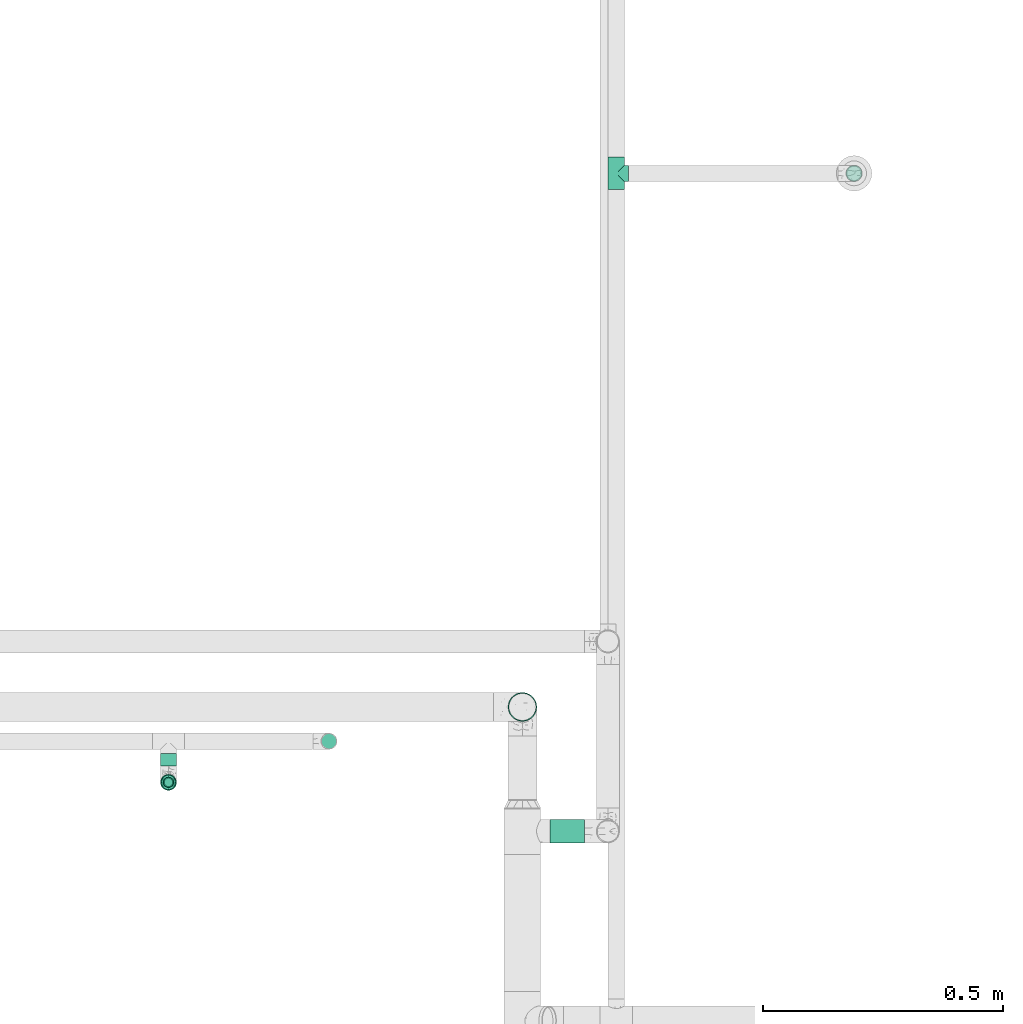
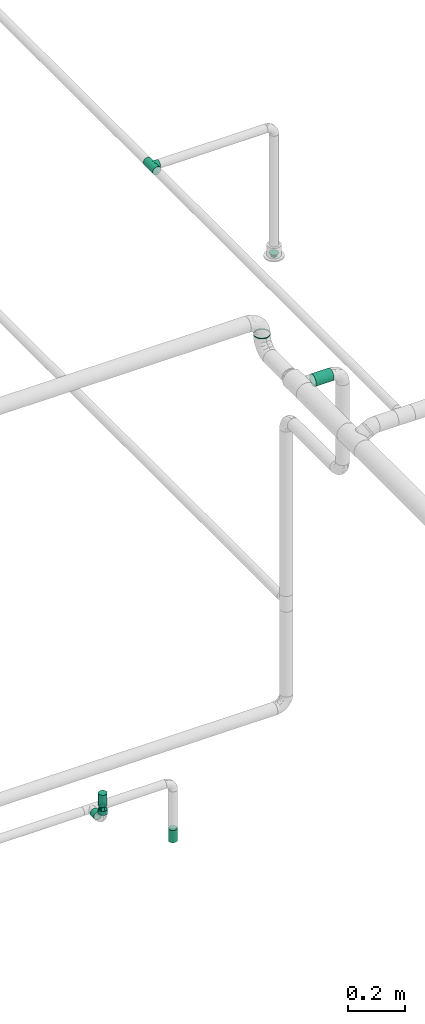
# One storey, part 62 of 95: 5 flow segments, 3 flow fittings, 2 flow terminals.
"""IFC2X3 building model written with IfcOpenShell, lengths in millimetres."""

from ifc_helpers import new_model, entity, si_unit, converted_unit, derived_unit, direction, frame, origin_with_axes, origin_2d_with_axis, place, context, subcontext, project, spatial, hollow_circle, extrude, open_shell, surface_model, source, transform, mapped, type_object, element, save


model = new_model("IFC2X3")

# Units and contexts
model_context = context("Model", 3, precision=0.01, world=frame((0.0, 4.29681676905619e-09, 0.0)), true_north=direction((4.01073788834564e-13, 1.0)))
plan_context = context("Plan", 3, precision=0.01, world=frame((0.0, 4.29681676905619e-09, 0.0)), true_north=direction((4.01073788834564e-13, 1.0)))
body_context = subcontext(model_context, "Body", "Model", "MODEL_VIEW")
ifc_project = project(units=[converted_unit("PLANEANGLEUNIT", "DEGREE", entity("IfcPositiveLengthMeasure", 0.0174532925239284), si_unit("PLANEANGLEUNIT", "RADIAN"), dimensions=[0, 0, 0, 0, 0, 0, 0]), si_unit("AREAUNIT", "SQUARE_METRE"), si_unit("LENGTHUNIT", "METRE", prefix="MILLI"), si_unit("MASSUNIT", "GRAM", prefix="KILO"), si_unit("POWERUNIT", "WATT"), si_unit("PRESSUREUNIT", "PASCAL"), si_unit("FORCEUNIT", "NEWTON", prefix="KILO"), si_unit("ELECTRICVOLTAGEUNIT", "VOLT"), si_unit("ELECTRICCURRENTUNIT", "AMPERE"), si_unit("THERMODYNAMICTEMPERATUREUNIT", "DEGREE_CELSIUS"), si_unit("TIMEUNIT", "SECOND"), si_unit("VOLUMEUNIT", "CUBIC_METRE"), derived_unit("LINEARVELOCITYUNIT", [(si_unit("LENGTHUNIT", "METRE"), 1), (si_unit("TIMEUNIT", "SECOND"), -1)]), derived_unit("VOLUMETRICFLOWRATEUNIT", [(si_unit("VOLUMEUNIT", "CUBIC_METRE"), 1), (si_unit("TIMEUNIT", "SECOND"), -1)]), derived_unit("THERMALTRANSMITTANCEUNIT", [(si_unit("POWERUNIT", "WATT"), 1), (si_unit("THERMODYNAMICTEMPERATUREUNIT", "KELVIN"), -1), (si_unit("AREAUNIT", "SQUARE_METRE"), -1)]), derived_unit("SOUNDPRESSUREUNIT", [(si_unit("PRESSUREUNIT", "PASCAL"), 1)])], contexts=[model_context, plan_context])

# Site, building, storey
site_placement = place(None, frame((0.0, -4.29681676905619e-09, 0.0), z_axis=(0.0, 0.0, 1.0), x_axis=(1.0, 0.0, 0.0)))
site = spatial("IfcSite", under=ifc_project, at=site_placement, CompositionType="ELEMENT")
building_placement = place(site_placement, frame((0.0, 4.29681676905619e-09, 0.0), z_axis=(0.0, 0.0, 1.0), x_axis=(1.0, 0.0, 0.0)))
building = spatial("IfcBuilding", under=site, at=building_placement, Name="mc-building", CompositionType="ELEMENT")
storey_placement = place(building_placement, frame((0.0, 0.0, 210900.0), z_axis=(0.0, 0.0, 1.0), x_axis=(1.0, 0.0, 0.0)))
storey = spatial("IfcBuildingStorey", under=building, at=storey_placement, Name="Nivå F", CompositionType="ELEMENT", Elevation=210900.0)

# Flow fittings
pipe_fitting_type_1 = type_object("IfcPipeFittingType", Name="magi_pipe_fe_reducer_centric_short_NOR", PredefinedType="TRANSITION")
shared_shape_1 = source(origin_with_axes(), body_context, "Body", "SurfaceModel", [
    surface_model("IfcShellBasedSurfaceModel", [(14.4, 5.35, -9.26647), (14.4, 0.0, -10.7), (14.4, 2.76936, -10.33541), (14.4, 10.33541, -2.76936), (14.4, 7.56604, -7.56604), (14.4, -10.33541, -2.76936), (14.4, 9.26647, -5.35), (14.4, 0.0, 10.7), (14.4, -5.35, -9.26647), (14.4, -2.76936, -10.33541), (14.4, -7.56604, -7.56604), (14.4, -9.26647, -5.35), (14.4, 10.7, 0.0), (14.4, 10.33541, 2.76936), (14.4, 9.26647, 5.35), (14.4, 7.56604, 7.56604), (14.4, 2.76936, 10.33541), (14.4, 5.35, 9.26647), (14.4, -10.33541, 2.76936), (14.4, -7.56604, 7.56604), (14.4, -9.26647, 5.35), (14.4, -10.7, 0.0), (14.4, -2.76936, 10.33541), (14.4, -5.35, 9.26647), (12.4, 2.76936, 10.33541), (12.4, -10.33541, -2.76936), (12.4, 0.0, 10.7), (12.4, 5.35, 9.26647), (12.4, 7.56604, 7.56604), (12.4, 9.26647, 5.35), (12.4, 10.33541, 2.76936), (12.4, -10.33541, 2.76936), (12.4, -2.76936, 10.33541), (12.4, -7.56604, 7.56604), (12.4, -5.35, 9.26647), (12.4, -9.26647, 5.35), (12.4, -10.7, 0.0), (12.4, 10.33541, -2.76936), (12.4, 5.35, -9.26647), (12.4, 9.26647, -5.35), (12.4, 7.56604, -7.56604), (12.4, 2.76936, -10.33541), (12.4, -9.26647, -5.35), (12.4, -5.35, -9.26647), (12.4, -7.56604, -7.56604), (12.4, 0.0, -10.7), (12.4, -2.76936, -10.33541), (12.4, 10.7, 0.0), (-2.0, 11.9501, 11.9501), (-2.0, 0.0, 16.9), (-2.0, 4.37404, 16.32415), (-2.0, 8.45, 14.63583), (-2.0, 14.63583, 8.45), (-2.0, 16.32415, 4.37404), (-2.0, -16.32415, 4.37404), (-2.0, -8.45, 14.63583), (-2.0, -14.63583, 8.45), (-2.0, -11.9501, 11.9501), (-2.0, -4.37404, 16.32415), (-2.0, -16.32415, -4.37404), (-2.0, -16.9, 0.0), (-2.0, -8.45, -14.63583), (-2.0, 16.32415, -4.37404), (-2.0, 11.9501, -11.9501), (-2.0, 14.63583, -8.45), (-2.0, 8.45, -14.63583), (-2.0, 4.37404, -16.32415), (-2.0, 0.0, -16.9), (-2.0, -11.9501, -11.9501), (-2.0, -14.63583, -8.45), (-2.0, -4.37404, -16.32415), (-2.0, 16.9, 0.0), (0.0, 4.37404, -16.32415), (0.0, 8.45, -14.63583), (0.0, 11.9501, -11.9501), (0.0, 0.0, -16.9), (0.0, 16.32415, -4.37404), (0.0, 16.32415, 4.37404), (0.0, 14.63583, -8.45), (0.0, -8.45, -14.63583), (0.0, -4.37404, -16.32415), (0.0, -11.9501, -11.9501), (0.0, -16.32415, -4.37404), (0.0, -14.63583, -8.45), (0.0, -16.32415, 4.37404), (0.0, 16.9, 0.0), (0.0, 14.63583, 8.45), (0.0, 11.9501, 11.9501), (0.0, 4.37404, 16.32415), (0.0, 8.45, 14.63583), (0.0, 0.0, 16.9), (0.0, -14.63583, 8.45), (0.0, -16.9, 0.0), (0.0, -8.45, 14.63583), (0.0, -11.9501, 11.9501), (0.0, -4.37404, 16.32415), (12.4, 9.3625, -2.31662), (0.0, 14.42505, -5.97505), (0.0, 15.66253, -2.98753), (12.4, -6.6875, -6.94985), (0.0, -13.18758, -8.96258), (0.0, 2.98753, -15.66253), (12.4, 0.0, -9.26647), (12.4, 6.6875, -6.94985), (0.0, 8.96258, -13.18758), (12.4, -9.3625, -2.31662), (0.0, -15.66253, -2.98753), (0.0, -14.42505, -5.97505), (0.0, 5.97505, -14.42505), (0.0, -2.98753, -15.66253), (0.0, -8.96258, -13.18758), (0.0, 13.18758, -8.96258), (12.4, 8.025, -4.63324), (12.4, -2.675, -9.26647), (12.4, 2.675, -9.26647), (0.0, -5.97505, -14.42505), (12.4, -8.025, -4.63324), (12.4, -9.3625, 2.31662), (0.0, -14.42505, 5.97505), (0.0, -15.66253, 2.98753), (12.4, 6.6875, 6.94985), (0.0, 13.18758, 8.96258), (0.0, -2.98753, 15.66253), (12.4, 0.0, 9.26647), (12.4, -6.6875, 6.94985), (0.0, -8.96258, 13.18758), (12.4, 9.3625, 2.31662), (0.0, 15.66253, 2.98753), (0.0, 14.42505, 5.97505), (0.0, -5.97505, 14.42505), (0.0, 2.98753, 15.66253), (0.0, 8.96258, 13.18758), (0.0, -13.18758, 8.96258), (12.4, -8.025, 4.63324), (12.4, 2.675, 9.26647), (12.4, -2.675, 9.26647), (0.0, 5.97505, 14.42505), (12.4, 8.025, 4.63324)], [open_shell([[[0, 1, 2]], [[3, 0, 4]], [[5, 0, 3]], [[3, 4, 6]], [[7, 5, 3]], [[1, 8, 9]], [[1, 0, 8]], [[10, 5, 11]], [[5, 10, 8]], [[0, 5, 8]], [[3, 12, 13]], [[13, 14, 15]], [[13, 15, 16]], [[7, 3, 16]], [[16, 15, 17]], [[7, 18, 5]], [[18, 19, 20]], [[21, 5, 18]], [[19, 22, 23]], [[22, 19, 18]], [[7, 22, 18]], [[13, 16, 3]], [[24, 25, 26]], [[27, 25, 24]], [[28, 29, 30]], [[28, 25, 27]], [[31, 26, 25]], [[32, 33, 34]], [[33, 32, 31]], [[33, 31, 35]], [[32, 26, 31]], [[31, 25, 36]], [[30, 37, 28]], [[25, 28, 37]], [[38, 37, 39]], [[37, 38, 25]], [[38, 39, 40]], [[41, 25, 38]], [[42, 43, 44]], [[43, 42, 25]], [[43, 45, 46]], [[43, 25, 41]], [[41, 45, 43]], [[37, 30, 47]], [[25, 5, 36]], [[42, 11, 25]], [[8, 44, 43]], [[42, 44, 10]], [[9, 43, 46]], [[25, 11, 5]], [[5, 21, 36]], [[9, 8, 43]], [[10, 44, 8]], [[10, 11, 42]], [[1, 9, 46]], [[46, 45, 1]], [[41, 2, 45]], [[38, 0, 41]], [[6, 40, 39]], [[38, 40, 4]], [[3, 39, 37]], [[38, 4, 0]], [[0, 2, 41]], [[12, 3, 37]], [[6, 39, 3]], [[6, 4, 40]], [[47, 12, 37]], [[45, 2, 1]], [[30, 13, 47]], [[29, 14, 30]], [[17, 28, 27]], [[29, 28, 15]], [[16, 27, 24]], [[30, 14, 13]], [[13, 12, 47]], [[16, 17, 27]], [[15, 28, 17]], [[15, 14, 29]], [[7, 16, 24]], [[24, 26, 7]], [[32, 22, 26]], [[34, 23, 32]], [[20, 33, 35]], [[34, 33, 19]], [[18, 35, 31]], [[34, 19, 23]], [[23, 22, 32]], [[21, 18, 31]], [[20, 35, 18]], [[20, 19, 33]], [[36, 21, 31]], [[26, 22, 7]], [[48, 49, 50]], [[48, 50, 51]], [[48, 52, 53]], [[48, 53, 49]], [[49, 53, 54]], [[55, 56, 57]], [[55, 58, 49]], [[56, 55, 49]], [[49, 54, 56]], [[54, 59, 60]], [[54, 53, 61]], [[53, 62, 63]], [[63, 62, 64]], [[63, 65, 66]], [[61, 53, 63]], [[67, 63, 66]], [[59, 68, 69]], [[68, 59, 61]], [[61, 67, 70]], [[59, 54, 61]], [[63, 67, 61]], [[53, 71, 62]], [[72, 73, 74]], [[75, 72, 74]], [[74, 76, 77]], [[76, 74, 78]], [[74, 77, 79]], [[75, 79, 80]], [[75, 74, 79]], [[81, 82, 83]], [[82, 81, 79]], [[79, 84, 82]], [[77, 76, 85]], [[77, 86, 87]], [[77, 87, 88]], [[88, 84, 79]], [[88, 87, 89]], [[84, 88, 90]], [[90, 91, 84]], [[92, 82, 84]], [[91, 93, 94]], [[91, 90, 93]], [[93, 90, 95]], [[79, 77, 88]], [[59, 82, 60]], [[69, 83, 59]], [[79, 68, 61]], [[69, 68, 81]], [[80, 61, 70]], [[59, 83, 82]], [[82, 92, 60]], [[80, 79, 61]], [[81, 68, 79]], [[81, 83, 69]], [[75, 80, 70]], [[70, 67, 75]], [[66, 72, 67]], [[65, 73, 66]], [[78, 63, 64]], [[65, 63, 74]], [[76, 64, 62]], [[65, 74, 73]], [[73, 72, 66]], [[85, 76, 62]], [[78, 64, 76]], [[78, 74, 63]], [[71, 85, 62]], [[67, 72, 75]], [[53, 77, 71]], [[52, 86, 53]], [[89, 48, 51]], [[52, 48, 87]], [[88, 51, 50]], [[53, 86, 77]], [[77, 85, 71]], [[88, 89, 51]], [[87, 48, 89]], [[87, 86, 52]], [[90, 88, 50]], [[50, 49, 90]], [[58, 95, 49]], [[55, 93, 58]], [[91, 57, 56]], [[55, 57, 94]], [[84, 56, 54]], [[55, 94, 93]], [[93, 95, 58]], [[92, 84, 54]], [[91, 56, 84]], [[91, 94, 57]], [[60, 92, 54]], [[49, 95, 90]], [[27, 34, 47]], [[47, 34, 43]], [[43, 38, 47]], [[43, 34, 36]], [[90, 87, 94]], [[92, 94, 87]], [[87, 74, 92]], [[75, 92, 74]], [[81, 92, 75]], [[74, 87, 85]], [[96, 97, 98]], [[81, 99, 100]], [[101, 102, 75]], [[98, 85, 47]], [[74, 103, 104]], [[104, 103, 38]], [[105, 106, 107]], [[38, 108, 104]], [[102, 109, 75]], [[110, 99, 81]], [[47, 96, 98]], [[103, 111, 112]], [[109, 102, 113]], [[36, 92, 106]], [[102, 101, 114]], [[110, 115, 43]], [[96, 112, 97]], [[107, 116, 105]], [[36, 106, 105]], [[113, 115, 109]], [[43, 115, 113]], [[116, 107, 100]], [[108, 38, 114]], [[111, 103, 74]], [[111, 97, 112]], [[99, 110, 43]], [[116, 100, 99]], [[101, 108, 114]], [[117, 118, 119]], [[87, 120, 121]], [[122, 123, 90]], [[119, 92, 36]], [[94, 124, 125]], [[125, 124, 34]], [[126, 127, 128]], [[34, 129, 125]], [[123, 130, 90]], [[131, 120, 87]], [[36, 117, 119]], [[124, 132, 133]], [[130, 123, 134]], [[47, 85, 127]], [[123, 122, 135]], [[131, 136, 27]], [[117, 133, 118]], [[128, 137, 126]], [[47, 127, 126]], [[134, 136, 130]], [[27, 136, 134]], [[137, 128, 121]], [[129, 34, 135]], [[132, 124, 94]], [[132, 118, 133]], [[120, 131, 27]], [[137, 121, 120]], [[122, 129, 135]]])]),
])
for number, where, z_axis, x_axis, name in (
    (1, (523293.96306, 452603.28649, 3769.25200000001), (0.0, -0.99999999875, -4.99999999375e-05), (0.0, 4.99999999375e-05, -0.99999999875), "magi_pipe_fe_reducer_centric_short_NOR"),
    (2, (521865.41856, 451334.42495, 2650.78069000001), (-1.0, 0.0, 0.0), (0.0, 0.0, 1.0), "magi_pipe_fe_reducer_centric_short_NOR"),
):
    element("IfcFlowFitting", number, at=place(storey_placement, frame(where, z_axis=z_axis, x_axis=x_axis)), inside=storey, type_object=pipe_fitting_type_1, Name=name, context=body_context, shape_type="MappedRepresentation", body=[
        mapped(shared_shape_1, transform((0.0, 0.0, 0.0), scale=1.0)),
    ])
pipe_fitting_type_2 = type_object("IfcPipeFittingType", Name="magi_pipe_fe_tee_centric_90_NOR", PredefinedType="JUNCTION")
shared_shape_2 = source(origin_with_axes(), body_context, "Body", "SurfaceModel", [
    surface_model("IfcShellBasedSurfaceModel", [(-33.8, 4.37404, -16.32415), (-33.8, 0.0, -16.9), (-33.8, 16.32415, -4.37404), (-33.8, 8.45, -14.63583), (-33.8, 11.9501, -11.9501), (-33.8, 14.63583, -8.45), (-33.8, -16.9, 0.0), (-33.8, -11.9501, -11.9501), (-33.8, -14.63583, -8.45), (-33.8, -8.45, -14.63583), (-33.8, -4.37404, -16.32415), (-33.8, -16.32415, -4.37404), (-33.8, 14.63583, 8.45), (-33.8, 16.32415, 4.37404), (-33.8, -8.45, 14.63583), (-33.8, 8.45, 14.63583), (-33.8, 11.9501, 11.9501), (-33.8, 4.37404, 16.32415), (-33.8, 0.0, 16.9), (-33.8, -11.9501, 11.9501), (-33.8, -14.63583, 8.45), (-33.8, -16.32415, 4.37404), (-33.8, -4.37404, 16.32415), (-33.8, 16.9, 0.0), (33.8, 4.37404, -16.32415), (33.8, -16.9, 0.0), (33.8, 0.0, -16.9), (33.8, 14.63583, -8.45), (33.8, 8.45, -14.63583), (33.8, 16.32415, -4.37404), (33.8, 11.9501, -11.9501), (33.8, -16.32415, 4.37404), (33.8, -8.45, -14.63583), (33.8, -4.37404, -16.32415), (33.8, -11.9501, -11.9501), (33.8, -14.63583, -8.45), (33.8, -16.32415, -4.37404), (33.8, 16.32415, 4.37404), (33.8, 8.45, 14.63583), (33.8, 14.63583, 8.45), (33.8, 11.9501, 11.9501), (33.8, -8.45, 14.63583), (33.8, 4.37404, 16.32415), (33.8, -14.63583, 8.45), (33.8, -11.9501, 11.9501), (33.8, 0.0, 16.9), (33.8, -4.37404, 16.32415), (33.8, 16.9, 0.0), (16.28698, -16.28698, 4.51047), (16.9, -16.9, 0.0), (14.62704, -14.62704, 8.4652), (9.47213, -9.47213, 13.99602), (12.26343, -12.26343, 11.62834), (-16.9, -16.9, 0.0), (-16.28698, -16.28698, 4.51047), (-14.62704, -14.62704, 8.4652), (-12.26343, -12.26343, 11.62834), (-9.47213, -9.47213, 13.99602), (-6.42894, -6.42894, 15.62942), (6.42894, -6.42894, 15.62942), (3.24522, -3.24522, 16.58549), (0.0, 0.0, 16.9), (-3.24522, -3.24522, 16.58549), (3.24522, -3.24522, -16.58549), (0.0, 0.0, -16.9), (-3.24522, -3.24522, -16.58549), (-6.42894, -6.42894, -15.62942), (6.42894, -6.42894, -15.62942), (9.47213, -9.47213, -13.99602), (12.26343, -12.26343, -11.62834), (14.62704, -14.62704, -8.4652), (16.28698, -16.28698, -4.51047), (-9.47213, -9.47213, -13.99602), (-12.26343, -12.26343, -11.62834), (-16.28698, -16.28698, -4.51047), (-14.62704, -14.62704, -8.4652), (4.37404, -25.35, -16.32415), (-16.9, -25.35, 0.0), (0.0, -25.35, -16.9), (14.63583, -25.35, -8.45), (8.45, -25.35, -14.63583), (16.32415, -25.35, -4.37404), (11.9501, -25.35, -11.9501), (-11.9501, -25.35, -11.9501), (-8.45, -25.35, -14.63583), (-4.37404, -25.35, -16.32415), (-14.63583, -25.35, -8.45), (-16.32415, -25.35, -4.37404), (16.9, -25.35, 0.0), (8.45, -25.35, 14.63583), (16.32415, -25.35, 4.37404), (14.63583, -25.35, 8.45), (-8.45, -25.35, 14.63583), (11.9501, -25.35, 11.9501), (4.37404, -25.35, 16.32415), (-16.32415, -25.35, 4.37404), (-11.9501, -25.35, 11.9501), (-14.63583, -25.35, 8.45), (0.0, -25.35, 16.9), (-4.37404, -25.35, 16.32415)], [open_shell([[[0, 1, 2]], [[3, 0, 4]], [[0, 2, 5]], [[4, 0, 5]], [[6, 2, 1]], [[7, 8, 9]], [[1, 10, 9]], [[11, 6, 8]], [[1, 9, 8]], [[1, 8, 6]], [[6, 12, 2]], [[12, 13, 2]], [[14, 12, 6]], [[12, 14, 15]], [[16, 12, 15]], [[17, 15, 18]], [[19, 14, 20]], [[21, 20, 14]], [[22, 18, 14]], [[14, 6, 21]], [[14, 18, 15]], [[23, 2, 13]], [[24, 25, 26]], [[27, 24, 28]], [[27, 29, 24]], [[27, 28, 30]], [[31, 25, 24]], [[26, 32, 33]], [[26, 34, 32]], [[35, 25, 36]], [[35, 34, 26]], [[25, 35, 26]], [[24, 29, 31]], [[29, 37, 38]], [[38, 37, 39]], [[38, 31, 29]], [[38, 39, 40]], [[41, 38, 42]], [[43, 41, 44]], [[41, 43, 31]], [[41, 45, 46]], [[41, 31, 38]], [[42, 45, 41]], [[29, 47, 37]], [[31, 43, 48]], [[25, 31, 49]], [[49, 31, 48]], [[43, 50, 48]], [[44, 41, 51]], [[50, 43, 52]], [[51, 52, 44]], [[52, 43, 44]], [[53, 54, 21]], [[53, 21, 6]], [[21, 54, 20]], [[54, 55, 20]], [[56, 57, 19]], [[19, 20, 56]], [[19, 57, 14]], [[56, 20, 55]], [[14, 57, 58]], [[51, 41, 59]], [[60, 45, 61]], [[59, 46, 60]], [[46, 59, 41]], [[60, 46, 45]], [[61, 45, 42]], [[39, 37, 13]], [[16, 38, 40]], [[12, 40, 39]], [[42, 38, 15]], [[23, 37, 47]], [[62, 61, 18]], [[62, 22, 58]], [[22, 62, 18]], [[58, 22, 14]], [[61, 17, 18]], [[42, 17, 61]], [[15, 17, 42]], [[15, 38, 16]], [[12, 16, 40]], [[13, 12, 39]], [[37, 23, 13]], [[5, 27, 30]], [[23, 47, 29]], [[30, 28, 3]], [[27, 2, 29]], [[26, 33, 63]], [[26, 64, 24]], [[64, 26, 63]], [[28, 24, 0]], [[64, 0, 24]], [[4, 30, 3]], [[2, 27, 5]], [[5, 30, 4]], [[2, 23, 29]], [[65, 66, 10]], [[1, 0, 64]], [[1, 65, 10]], [[66, 9, 10]], [[0, 3, 28]], [[1, 64, 65]], [[63, 33, 67]], [[32, 34, 68]], [[69, 68, 34]], [[35, 70, 69]], [[69, 34, 35]], [[32, 68, 67]], [[36, 25, 49]], [[36, 71, 35]], [[71, 36, 49]], [[35, 71, 70]], [[72, 9, 66]], [[72, 7, 9]], [[7, 72, 73]], [[7, 73, 8]], [[74, 53, 11]], [[75, 74, 8]], [[74, 11, 8]], [[11, 53, 6]], [[75, 8, 73]], [[32, 67, 33]], [[76, 77, 78]], [[79, 76, 80]], [[79, 81, 76]], [[79, 80, 82]], [[77, 76, 81]], [[78, 83, 84]], [[84, 85, 78]], [[86, 77, 87]], [[83, 78, 86]], [[77, 86, 78]], [[81, 88, 77]], [[89, 88, 90]], [[89, 90, 91]], [[92, 77, 89]], [[89, 91, 93]], [[92, 89, 94]], [[95, 96, 97]], [[96, 95, 92]], [[92, 98, 99]], [[95, 77, 92]], [[94, 98, 92]], [[89, 77, 88]], [[77, 95, 53]], [[54, 53, 95]], [[97, 96, 56]], [[96, 92, 57]], [[95, 97, 54]], [[58, 92, 99]], [[55, 54, 97]], [[56, 55, 97]], [[58, 57, 92]], [[98, 61, 62]], [[58, 99, 62]], [[56, 96, 57]], [[62, 99, 98]], [[94, 60, 98]], [[89, 59, 94]], [[91, 90, 48]], [[52, 93, 91]], [[93, 51, 89]], [[49, 90, 88]], [[59, 60, 94]], [[51, 59, 89]], [[49, 48, 90]], [[50, 52, 91]], [[48, 50, 91]], [[51, 93, 52]], [[98, 60, 61]], [[88, 81, 49]], [[71, 49, 81]], [[79, 82, 69]], [[82, 80, 68]], [[81, 79, 71]], [[67, 80, 76]], [[70, 71, 79]], [[69, 70, 79]], [[67, 68, 80]], [[78, 64, 63]], [[67, 76, 63]], [[69, 82, 68]], [[63, 76, 78]], [[85, 65, 78]], [[84, 66, 85]], [[86, 87, 74]], [[86, 73, 83]], [[72, 84, 83]], [[53, 87, 77]], [[66, 65, 85]], [[72, 66, 84]], [[53, 74, 87]], [[75, 73, 86]], [[74, 75, 86]], [[72, 83, 73]], [[78, 65, 64]]])]),
])
flow_fitting_placement = place(storey_placement, frame((522798.57312, 452603.26458, 4315.0), z_axis=(0.0, 0.0, -1.0), x_axis=(0.0, -1.0, 0.0)))
element("IfcFlowFitting", 3, at=flow_fitting_placement, inside=storey, type_object=pipe_fitting_type_2, Name="magi_pipe_fe_tee_centric_90_NOR", context=body_context, shape_type="MappedRepresentation", body=[
    mapped(shared_shape_2, transform((0.0, 0.0, 0.0), scale=1.0)),
])

# Flow segments
pipe_segment_type = type_object("IfcPipeSegmentType", Name="Stålrør normaltykke", PredefinedType="RIGIDSEGMENT")
shared_shape_3 = source(origin_with_axes(), body_context, "Body", "SweptSolid", [
    extrude(hollow_circle(Radius=30.1, WallThickness=2.0, at=origin_2d_with_axis()), frame((0.0, 0.0, 0.0), z_axis=(1.0, 0.0, 0.0), x_axis=(0.0, 1.0, 0.0)), (0.0, 0.0, 1.0), 4.4),
])
flow_segment_1_placement = place(storey_placement, frame((522602.92009, 451491.5262, 4335.24455999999), z_axis=(0.0, -1.0, 0.0), x_axis=(0.0, 0.0, 1.0)))
element("IfcFlowSegment", 4, at=flow_segment_1_placement, inside=storey, type_object=pipe_segment_type, Name="Stålrør normaltykke", context=body_context, shape_type="MappedRepresentation", body=[
    mapped(shared_shape_3, transform((0.0, 0.0, 0.0), scale=1.0)),
])
shared_shape_4 = source(origin_with_axes(), body_context, "Body", "SweptSolid", [
    extrude(hollow_circle(Radius=24.1, WallThickness=2.0, at=origin_2d_with_axis()), frame((0.0, 0.0, 0.0), z_axis=(1.0, 0.0, 0.0), x_axis=(0.0, 1.0, 0.0)), (0.0, 0.0, 1.0), 72.5),
])
flow_segment_2_placement = place(storey_placement, frame((522660.07009, 451232.40627, 4274.84456), z_axis=(0.0, 0.0, 1.0), x_axis=(1.0, 0.0, 0.0)))
element("IfcFlowSegment", 5, at=flow_segment_2_placement, inside=storey, type_object=pipe_segment_type, Name="Stålrør normaltykke", context=body_context, shape_type="MappedRepresentation", body=[
    mapped(shared_shape_4, transform((0.0, 0.0, 0.0), scale=1.0)),
])
shared_shape_5 = source(origin_with_axes(), body_context, "Body", "SweptSolid", [
    extrude(hollow_circle(Radius=16.9, WallThickness=2.0, at=origin_2d_with_axis()), frame((0.0, 0.0, 0.0), z_axis=(1.0, 0.0, 0.0), x_axis=(0.0, 1.0, 0.0)), (0.0, 0.0, 1.0), 26.5),
])
flow_segment_3_placement = place(storey_placement, frame((521865.41856, 451394.70824, 2600.0), z_axis=(0.0, 0.0, 1.0), x_axis=(0.0, -1.0, 0.0)))
element("IfcFlowSegment", 6, at=flow_segment_3_placement, inside=storey, type_object=pipe_segment_type, Name="Stålrør normaltykke", context=body_context, shape_type="MappedRepresentation", body=[
    mapped(shared_shape_5, transform((0.0, 0.0, 0.0), scale=1.0)),
])
shared_shape_6 = source(origin_with_axes(), body_context, "Body", "SweptSolid", [
    extrude(hollow_circle(Radius=16.9, WallThickness=2.0, at=origin_2d_with_axis()), frame((0.0, 0.0, 0.0), z_axis=(1.0, 0.0, 0.0), x_axis=(0.0, 1.0, 0.0)), (0.0, 0.0, 1.0), 17.0),
])
flow_segment_4_placement = place(storey_placement, frame((521865.41856, 451334.42495, 2633.79999999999), z_axis=(-1.0, 0.0, 0.0), x_axis=(0.0, 0.0, 1.0)))
element("IfcFlowSegment", 7, at=flow_segment_4_placement, inside=storey, type_object=pipe_segment_type, Name="Stålrør normaltykke", context=body_context, shape_type="MappedRepresentation", body=[
    mapped(shared_shape_6, transform((0.0, 0.0, 0.0), scale=1.0)),
])
shared_shape_7 = source(origin_with_axes(), body_context, "Body", "SweptSolid", [
    extrude(hollow_circle(Radius=10.7, WallThickness=2.0, at=origin_2d_with_axis()), frame((0.0, 0.0, 0.0), z_axis=(1.0, 0.0, 0.0), x_axis=(0.0, 1.0, 0.0)), (0.0, 0.0, 1.0), 6.9),
])
flow_segment_5_placement = place(storey_placement, frame((521865.41856, 451334.42495, 2670.04800000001), z_axis=(-1.0, 0.0, 0.0), x_axis=(0.0, 0.0, -1.0)))
element("IfcFlowSegment", 8, at=flow_segment_5_placement, inside=storey, type_object=pipe_segment_type, Name="Stålrør normaltykke", context=body_context, shape_type="MappedRepresentation", body=[
    mapped(shared_shape_7, transform((0.0, 0.0, 0.0), scale=1.0)),
])

# Flow terminals
fire_suppression_terminal_type_1 = type_object("IfcFireSuppressionTerminalType", Name="SP-15-K80-68DGR-STD-HIMLING", PredefinedType="NOTDEFINED")
shared_shape_8 = source(origin_with_axes(), body_context, "Body", "SurfaceModel", [
    surface_model("IfcShellBasedSurfaceModel", [(4.1411, -15.45481, 53.0), (8.0, -13.85641, 53.0), (11.31371, -11.31371, 53.0), (-8.0, -13.85641, 53.0), (15.45481, -4.1411, 53.0), (16.0, 0.0, 53.0), (13.85641, -8.0, 53.0), (0.0, -16.0, 53.0), (-4.1411, -15.45481, 53.0), (-13.85641, -8.0, 53.0), (-11.31371, -11.31371, 53.0), (-15.45481, -4.1411, 53.0), (15.45481, 4.1411, 53.0), (13.85641, 8.0, 53.0), (11.31371, 11.31371, 53.0), (-4.1411, 15.45481, 53.0), (8.0, 13.85641, 53.0), (4.1411, 15.45481, 53.0), (0.0, 16.0, 53.0), (-13.85641, 8.0, 53.0), (-15.45481, 4.1411, 53.0), (-16.0, 0.0, 53.0), (-11.31371, 11.31371, 53.0), (-8.0, 13.85641, 53.0), (0.0, 16.0, 0.0), (4.1411, 15.45481, 0.0), (8.0, 13.85641, 0.0), (-4.1411, 15.45481, 0.0), (11.31371, 11.31371, 0.0), (13.85641, 8.0, 0.0), (15.45481, 4.1411, 0.0), (-15.45481, -4.1411, 0.0), (-11.31371, 11.31371, 0.0), (-8.0, 13.85641, 0.0), (-13.85641, 8.0, 0.0), (-15.45481, 4.1411, 0.0), (-16.0, 0.0, 0.0), (4.1411, -15.45481, 0.0), (16.0, 0.0, 0.0), (15.45481, -4.1411, 0.0), (13.85641, -8.0, 0.0), (11.31371, -11.31371, 0.0), (8.0, -13.85641, 0.0), (-8.0, -13.85641, 0.0), (-13.85641, -8.0, 0.0), (-11.31371, -11.31371, 0.0), (0.0, -16.0, 0.0), (-4.1411, -15.45481, 0.0)], [open_shell([[[0, 1, 2]], [[3, 0, 2]], [[4, 5, 2]], [[4, 2, 6]], [[3, 2, 5]], [[7, 3, 8]], [[7, 0, 3]], [[3, 9, 10]], [[9, 3, 11]], [[5, 11, 3]], [[5, 12, 11]], [[12, 13, 14]], [[15, 12, 14]], [[16, 17, 18]], [[14, 16, 15]], [[18, 15, 16]], [[11, 19, 20]], [[21, 11, 20]], [[22, 15, 23]], [[15, 22, 19]], [[19, 11, 15]], [[11, 12, 15]], [[24, 25, 26]], [[27, 24, 26]], [[28, 29, 30]], [[27, 26, 28]], [[27, 28, 31]], [[27, 32, 33]], [[32, 27, 34]], [[34, 31, 35]], [[31, 34, 27]], [[35, 31, 36]], [[28, 30, 31]], [[37, 38, 39]], [[37, 39, 40]], [[41, 42, 37]], [[41, 37, 40]], [[38, 37, 43]], [[44, 43, 45]], [[43, 44, 31]], [[43, 46, 47]], [[43, 31, 38]], [[37, 46, 43]], [[38, 31, 30]], [[11, 31, 44]], [[45, 9, 44]], [[3, 43, 47]], [[45, 43, 10]], [[8, 47, 46]], [[31, 21, 36]], [[31, 11, 21]], [[44, 9, 11]], [[45, 10, 9]], [[3, 10, 43]], [[47, 8, 3]], [[46, 7, 8]], [[0, 37, 42]], [[41, 1, 42]], [[6, 40, 39]], [[41, 40, 2]], [[4, 39, 38]], [[37, 0, 7]], [[42, 1, 0]], [[41, 2, 1]], [[40, 6, 2]], [[4, 6, 39]], [[38, 5, 4]], [[37, 7, 46]], [[12, 38, 30]], [[13, 30, 29]], [[16, 26, 25]], [[17, 25, 24]], [[30, 13, 12]], [[12, 5, 38]], [[28, 14, 13]], [[28, 26, 14]], [[14, 26, 16]], [[25, 17, 16]], [[28, 13, 29]], [[24, 18, 17]], [[15, 27, 33]], [[32, 23, 33]], [[19, 34, 35]], [[32, 34, 22]], [[20, 35, 36]], [[27, 15, 18]], [[33, 23, 15]], [[32, 22, 23]], [[34, 19, 22]], [[20, 19, 35]], [[36, 21, 20]], [[27, 18, 24]]])]),
])
flow_terminal_1_placement = place(storey_placement, frame((522200.0, 451420.05824, 2400.0), z_axis=(0.0, 0.0, -1.0), x_axis=(1.0, 0.0, 0.0)))
element("IfcFlowTerminal", 9, at=flow_terminal_1_placement, inside=storey, type_object=fire_suppression_terminal_type_1, Name="SP-15-K80-68DGR-STD-HIMLING", context=body_context, shape_type="MappedRepresentation", body=[
    mapped(shared_shape_8, transform((0.0, 0.0, 0.0), scale=1.0)),
])
fire_suppression_terminal_type_2 = type_object("IfcFireSuppressionTerminalType", Name="SP-15-K80-68DGR-STD-STÅENDE 2", PredefinedType="NOTDEFINED")
flow_terminal_2_placement = place(storey_placement, frame((521865.41856, 451334.42495, 2667.0), z_axis=(0.0, 0.0, 1.0), x_axis=(-1.0, 0.0, 0.0)))
element("IfcFlowTerminal", 10, at=flow_terminal_2_placement, inside=storey, type_object=fire_suppression_terminal_type_2, Name="SP-15-K80-68DGR-STD-STÅENDE 2", context=body_context, shape_type="MappedRepresentation", body=[
    mapped(shared_shape_8, transform((0.0, 0.0, 0.0), scale=1.0)),
])

save(model, "model.ifc")
